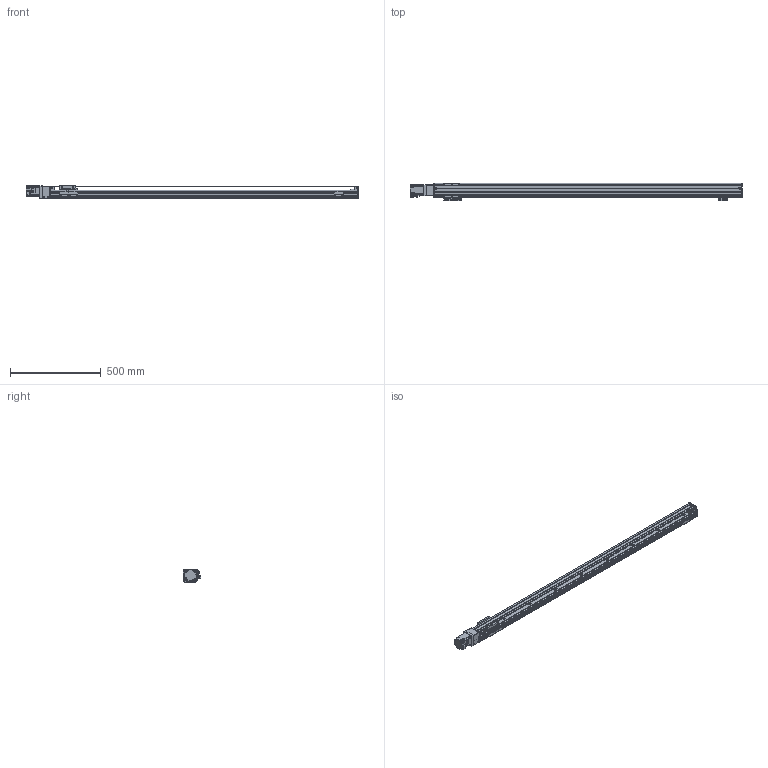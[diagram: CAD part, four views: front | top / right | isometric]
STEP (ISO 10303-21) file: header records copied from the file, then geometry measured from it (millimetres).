
FILE_DESCRIPTION(/* description */ (''),/* implementation_level */ '2;1');
FILE_NAME(/* name */ '\\192.168.0.160\disk1\HAN SHIN Master\B-설계부문\C-표준\B-2024년\BC02-표준도면\+로봇 개선표준도면\표준 승인도 작업 폴더\3D\HG75\HG75직렬\HG75-S20-N1B-1500-R10.stp',/* time_stamp */ '2024-02-01T17:20:31+09:00',/* author */ ('User'),/* organization */ (''),/* preprocessor_version */ 'ST-DEVELOPER v18.1',/* originating_system */ 'Autodesk Inventor 2022',/* authorisation */ '');
FILE_SCHEMA (('AUTOMOTIVE_DESIGN { 1 0 10303 214 3 1 1 }'));
Length unit declared in the file: millimetre
Products named in the file (21): HG75-S20-N1B-0500-R10 - 간소화; BASE; HR75 FRONT BLOCK; HR75 REAR COVER-TENTION; HR75 TENSION REAR BLOCK; HG3UPCOV001; H 15F_BLOCK; COUPLING COVER; HR75 REAR COVER; HR65,75 SENSOR DOG; HG90STOPPER - 20L; HG90STOPPER - 27L; hg-kr23_; HG75 S MOTOR PLATE-B; HG75 S MOTOR PLATE-M; hsr_ftht_A-M6F_grease_nipple_joint; NIPPLE CAP(신규); HR75 W TABLE; LMKE1520 NUT; SENSOR BRK(EE-SX674A); EE_SX674A
Assembly tree (26 placements, depth 2):
  HG75-S20-N1B-0500-R10 - 간소화
    BASE
    HR75 FRONT BLOCK
    HR75 REAR COVER-TENTION
    SENSOR BRK(EE-SX674A)  x3
    EE_SX674A  x3
    HR75 TENSION REAR BLOCK
    HG3UPCOV001
    H 15F_BLOCK
    COUPLING COVER
    HR75 REAR COVER
    HR65,75 SENSOR DOG
    HG90STOPPER - 20L
    HG90STOPPER - 27L
    hg-kr23_
    HG75 S MOTOR PLATE-B
    HG75 S MOTOR PLATE-M
    hsr_ftht_A-M6F_grease_nipple_joint  x2
    NIPPLE CAP(신규)  x2
    HR75 W TABLE
    LMKE1520 NUT
Bounding box: 1827.6 x 94 x 73 mm (x, y, z)
Volume: 2400162.7 mm3; surface area: 1076192.1 mm2
Topology: 26 solids, 26 shells, 1500 faces, 3999 edges, 2626 vertices
Faces by surface type: plane 746, cylinder 593, cone 125, sphere 16, torus 12, bspline 8
Full cylindrical faces by diameter (mm): 2 x4, 2.013 x2, 2.459 x12, 3 x4, 3.242 x30, 3.5 x6, 4.134 x55, 4.5 x18, 4.917 x5, 5 x38, 5.5 x39, 5.6 x10, 5.8 x4, 5.9 x8, 6 x6, 6.5 x4, 9.5 x35, 14 x1, 15 x3, 17 x1, 25 x2, 28 x1, 32 x2, 33.7 x1, 34 x1, 40 x1, 50 x2
Entity records: 41407 total; most frequent: CARTESIAN_POINT 7884, DIRECTION 6968, ORIENTED_EDGE 6558, EDGE_CURVE 3279, AXIS2_PLACEMENT_3D 2513, VERTEX_POINT 2187, LINE 1942, VECTOR 1942
